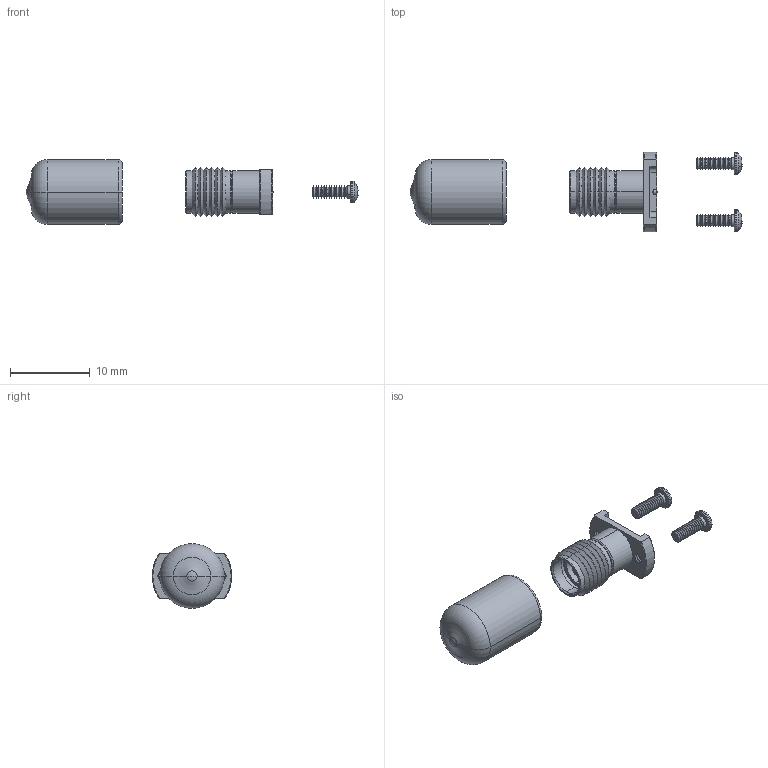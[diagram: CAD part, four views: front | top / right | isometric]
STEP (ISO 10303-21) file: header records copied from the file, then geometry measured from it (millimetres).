
FILE_DESCRIPTION (( 'STEP AP203' ), '1' );
FILE_NAME ('58-2X026-44050B.STEP', '2020-02-04T01:55:18', ( '' ), ( '' ), 'SwSTEP 2.0', 'SolidWorks 2016', '' );
FILE_SCHEMA (( 'CONFIG_CONTROL_DESIGN' ));
Length unit declared in the file: millimetre
Products named in the file (15): 101-2730-440050B; 101-2731-440000B; 103-1406-226050D; 102-1139-700000D; 108-0065-900000B; 110-0007-440000A; 58-20026-44051B; 58-2X026-44050B
Assembly tree (8 placements, depth 3):
  101-2731-440000B
  103-1406-226050D
  102-1139-700000D
  108-0065-900000B
  110-0007-440000A
Bounding box: 41.63 x 9.97 x 8.1 mm (x, y, z)
Volume: 505.8 mm3; surface area: 1410.9 mm2
Topology: 7 solids, 7 shells, 439 faces, 978 edges, 570 vertices
Faces by surface type: cone 228, cylinder 93, plane 76, torus 18, bspline 16, sphere 8
Entity records: 11871 total; most frequent: CARTESIAN_POINT 2447, DIRECTION 1829, ORIENTED_EDGE 1582, EDGE_CURVE 791, AXIS2_PLACEMENT_3D 748, VERTEX_POINT 466, CIRCLE 396, EDGE_LOOP 395
